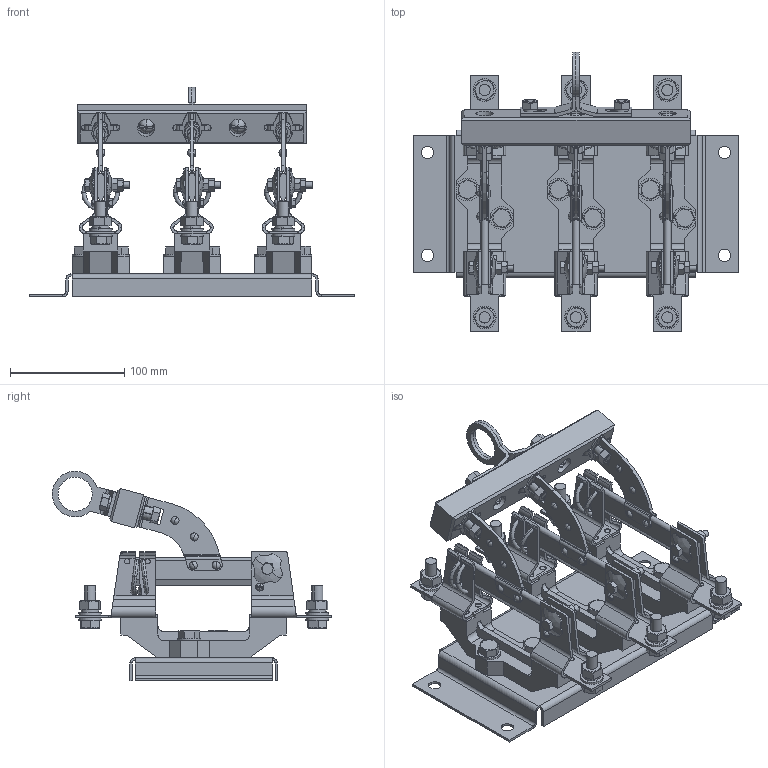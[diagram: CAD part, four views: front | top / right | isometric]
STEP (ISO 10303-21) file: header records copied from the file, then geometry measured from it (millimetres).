
FILE_DESCRIPTION (( 'STEP AP214' ), '1' );
FILE_NAME ('Ðàçúåäèíèòåëü ÐÅ19-37-31190-400À-ÓÕË3-ÊÝÀÇ.STEP', '2023-08-22T07:40:54', ( '' ), ( '' ), 'SwSTEP 2.0', 'SolidWorks 2018', '' );
FILE_SCHEMA (( 'AUTOMOTIVE_DESIGN' ));
Length unit declared in the file: millimetre
Products named in the file (1): Ðàçúåäèíèòåëü ÐÅ19-37-31190-400À-ÓÕË3-ÊÝÀÇ
Bounding box: 285 x 244.42 x 183.29 mm (x, y, z)
Surface area: 350349.3 mm2 (no closed solid volume)
Topology: 0 solids, 205 shells, 1899 faces, 5489 edges, 3753 vertices
Faces by surface type: plane 1058, cylinder 489, cone 118, torus 98, bspline 84, sphere 52
Entity records: 87616 total; most frequent: CARTESIAN_POINT 18416, DIRECTION 10001, ORIENTED_EDGE 9148, EDGE_CURVE 5489, VERTEX_POINT 3753, AXIS2_PLACEMENT_3D 3707, LINE 2587, VECTOR 2587
